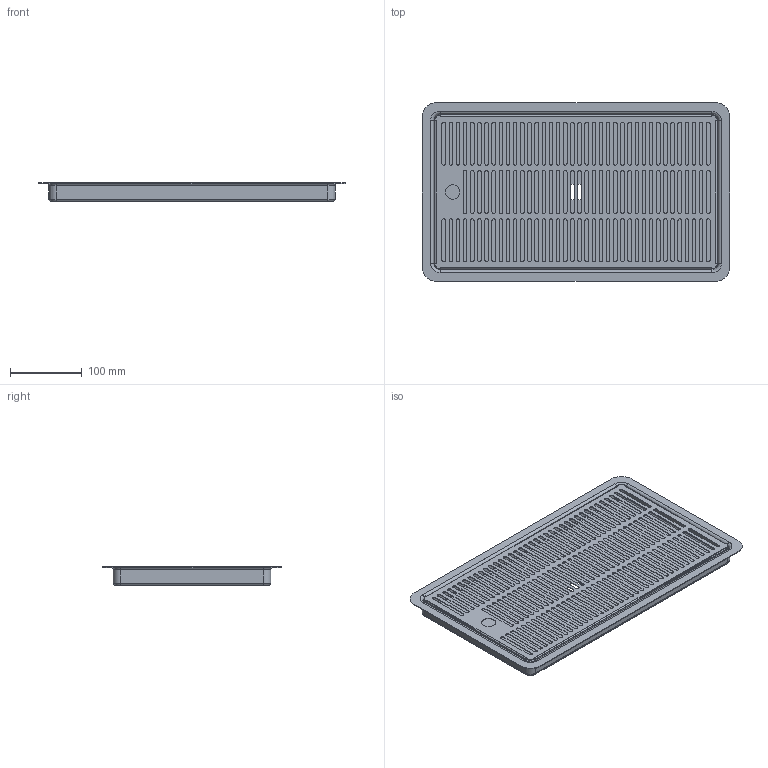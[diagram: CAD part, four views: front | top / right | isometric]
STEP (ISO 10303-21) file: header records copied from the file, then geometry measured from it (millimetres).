
FILE_DESCRIPTION(/* description */ ('STEP AP214'),/* implementation_level */ '2;1');
FILE_NAME(/* name */ '682dc289271b9e309275f785',/* time_stamp */ '2025-05-21T12:09:46Z',/* author */ (''),/* organization */ (''),/* preprocessor_version */ 'ST-DEVELOPER v20',/* originating_system */ 'ONSHAPE BY PTC INC, 1.198',/* authorisation */ ' ');
FILE_SCHEMA (('AUTOMOTIVE_DESIGN {1 0 10303 214 3 1 1}'));
Length unit declared in the file: metre
Products named in the file (3): Drip tray; 602531
Assembly tree (2 placements, depth 2):
  Drip tray
    602531
    602531
Bounding box: 430 x 250 x 26.5 mm (x, y, z)
Volume: 200005.8 mm3; surface area: 429907.5 mm2
Topology: 2 solids, 2 shells, 548 faces, 1586 edges, 1044 vertices
Faces by surface type: plane 268, cylinder 264, torus 16
Full cylindrical faces by diameter (mm): 20 x1, 23.667 x1
Entity records: 19073 total; most frequent: CARTESIAN_POINT 4117, ORIENTED_EDGE 3168, DIRECTION 2968, EDGE_CURVE 1584, AXIS2_PLACEMENT_3D 1087, VERTEX_POINT 1044, LINE 794, VECTOR 794
